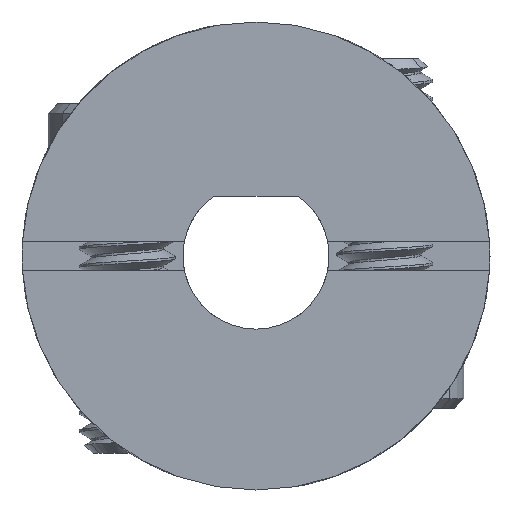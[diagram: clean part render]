
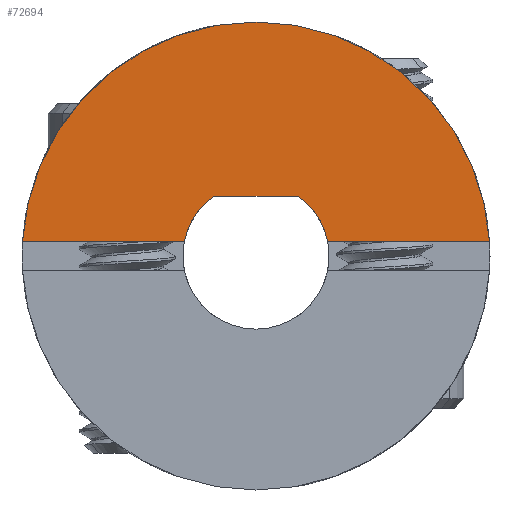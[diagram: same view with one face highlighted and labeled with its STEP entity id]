
A CAD part, front view. The second image highlights one B-rep face of the part: STEP entity #72694.
In plain terms, the highlighted planar face has unit normal (0, -1, 0).
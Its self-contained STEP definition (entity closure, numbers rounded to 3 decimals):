
#247 = AXIS2_PLACEMENT_3D ( 'NONE', #3462, #27194, #20064 ) ;
#879 = DIRECTION ( 'NONE',  ( 0., 0., -1. ) ) ;
#2322 = ORIENTED_EDGE ( 'NONE', *, *, #59613, .T. ) ;
#3462 = CARTESIAN_POINT ( 'NONE',  ( 0., -10.249, 0. ) ) ;
#4107 = CIRCLE ( 'NONE', #83730, 3.175 ) ;
#5069 = LINE ( 'NONE', #61344, #62055 ) ;
#9307 = DIRECTION ( 'NONE',  ( 0., 1., 0. ) ) ;
#10745 = DIRECTION ( 'NONE',  ( 1., 0., 0. ) ) ;
#13522 = ORIENTED_EDGE ( 'NONE', *, *, #66767, .T. ) ;
#14900 = DIRECTION ( 'NONE',  ( 1., 0., 0. ) ) ;
#18123 = EDGE_CURVE ( 'NONE', #61052, #43204, #58129, .T. ) ;
#20064 = DIRECTION ( 'NONE',  ( 0., 0., -1. ) ) ;
#21390 = CARTESIAN_POINT ( 'NONE',  ( -1.842, -10.249, 2.586 ) ) ;
#21697 = DIRECTION ( 'NONE',  ( 0., 1., 0. ) ) ;
#27194 = DIRECTION ( 'NONE',  ( 0., -1., 0. ) ) ;
#27953 = CARTESIAN_POINT ( 'NONE',  ( 0., -10.249, 0. ) ) ;
#29135 = DIRECTION ( 'NONE',  ( 0., 0., -1. ) ) ;
#29600 = VERTEX_POINT ( 'NONE', #66891 ) ;
#33683 = AXIS2_PLACEMENT_3D ( 'NONE', #54664, #39493, #55676 ) ;
#39493 = DIRECTION ( 'NONE',  ( 0., -1., 0. ) ) ;
#40895 = CARTESIAN_POINT ( 'NONE',  ( 0., -10.249, 10.16 ) ) ;
#43204 = VERTEX_POINT ( 'NONE', #45880 ) ;
#43562 = DIRECTION ( 'NONE',  ( 0., 0., -1. ) ) ;
#45880 = CARTESIAN_POINT ( 'NONE',  ( 1.842, -10.249, 2.586 ) ) ;
#46399 = FACE_OUTER_BOUND ( 'NONE', #55196, .T. ) ;
#50425 = VECTOR ( 'NONE', #10745, 1000. ) ;
#52677 = DIRECTION ( 'NONE',  ( 0., -1., 0. ) ) ;
#52862 = VERTEX_POINT ( 'NONE', #58077 ) ;
#53671 = PLANE ( 'NONE',  #77556 ) ;
#54664 = CARTESIAN_POINT ( 'NONE',  ( 0., -10.249, 0. ) ) ;
#55119 = EDGE_CURVE ( 'NONE', #29600, #61052, #4107, .T. ) ;
#55196 = EDGE_LOOP ( 'NONE', ( #68503, #97070, #97912, #2322, #71892, #86123, #13522 ) ) ;
#55676 = DIRECTION ( 'NONE',  ( 0., 0., -1. ) ) ;
#57160 = CARTESIAN_POINT ( 'NONE',  ( 3.111, -10.249, 0.635 ) ) ;
#58077 = CARTESIAN_POINT ( 'NONE',  ( 3.111, -10.249, 0.635 ) ) ;
#58129 = LINE ( 'NONE', #69442, #65415 ) ;
#59331 = EDGE_CURVE ( 'NONE', #95875, #64610, #65613, .T. ) ;
#59613 = EDGE_CURVE ( 'NONE', #64610, #29600, #5069, .T. ) ;
#59989 = CIRCLE ( 'NONE', #33683, 10.16 ) ;
#61052 = VERTEX_POINT ( 'NONE', #21390 ) ;
#61344 = CARTESIAN_POINT ( 'NONE',  ( -12.646, -10.249, 0.635 ) ) ;
#61686 = DIRECTION ( 'NONE',  ( 1., 0., 0. ) ) ;
#62055 = VECTOR ( 'NONE', #14900, 1000. ) ;
#62190 = CARTESIAN_POINT ( 'NONE',  ( 0., -10.249, 0. ) ) ;
#64610 = VERTEX_POINT ( 'NONE', #84478 ) ;
#65415 = VECTOR ( 'NONE', #61686, 1000. ) ;
#65613 = CIRCLE ( 'NONE', #247, 10.16 ) ;
#66767 = EDGE_CURVE ( 'NONE', #43204, #52862, #70866, .T. ) ;
#66891 = CARTESIAN_POINT ( 'NONE',  ( -3.111, -10.249, 0.635 ) ) ;
#67390 = CARTESIAN_POINT ( 'NONE',  ( 0., -10.249, 0. ) ) ;
#68503 = ORIENTED_EDGE ( 'NONE', *, *, #89704, .T. ) ;
#69442 = CARTESIAN_POINT ( 'NONE',  ( -1.842, -10.249, 2.586 ) ) ;
#70649 = CARTESIAN_POINT ( 'NONE',  ( 10.14, -10.249, 0.635 ) ) ;
#70866 = CIRCLE ( 'NONE', #84541, 3.175 ) ;
#71892 = ORIENTED_EDGE ( 'NONE', *, *, #55119, .T. ) ;
#72694 = ADVANCED_FACE ( 'NONE', ( #46399 ), #53671, .T. ) ;
#77556 = AXIS2_PLACEMENT_3D ( 'NONE', #27953, #52677, #43562 ) ;
#79470 = LINE ( 'NONE', #57160, #50425 ) ;
#83730 = AXIS2_PLACEMENT_3D ( 'NONE', #67390, #21697, #29135 ) ;
#84478 = CARTESIAN_POINT ( 'NONE',  ( -10.14, -10.249, 0.635 ) ) ;
#84541 = AXIS2_PLACEMENT_3D ( 'NONE', #62190, #9307, #879 ) ;
#86123 = ORIENTED_EDGE ( 'NONE', *, *, #18123, .T. ) ;
#87484 = VERTEX_POINT ( 'NONE', #70649 ) ;
#89704 = EDGE_CURVE ( 'NONE', #52862, #87484, #79470, .T. ) ;
#93665 = EDGE_CURVE ( 'NONE', #87484, #95875, #59989, .T. ) ;
#95875 = VERTEX_POINT ( 'NONE', #40895 ) ;
#97070 = ORIENTED_EDGE ( 'NONE', *, *, #93665, .T. ) ;
#97912 = ORIENTED_EDGE ( 'NONE', *, *, #59331, .T. ) ;
